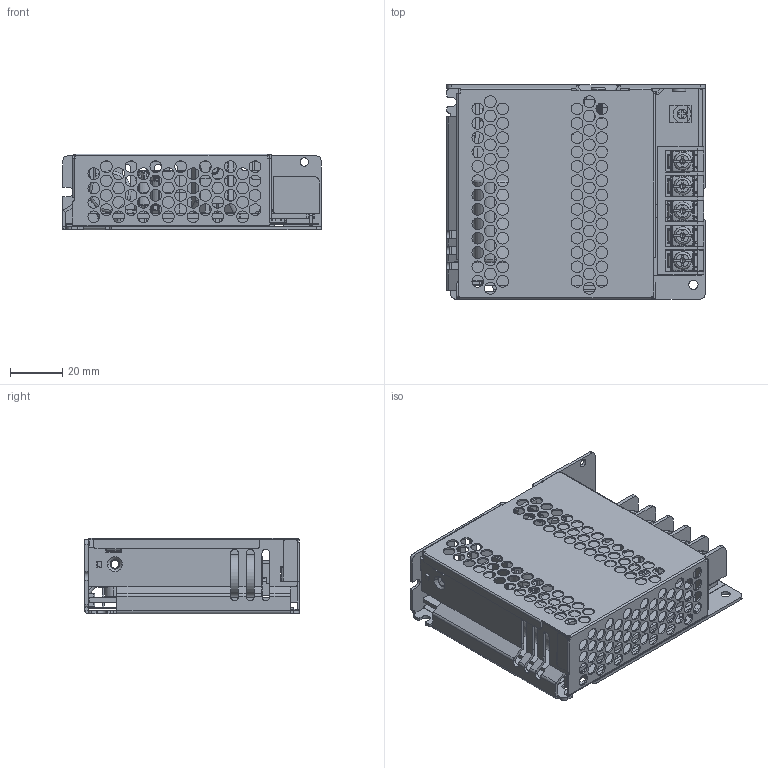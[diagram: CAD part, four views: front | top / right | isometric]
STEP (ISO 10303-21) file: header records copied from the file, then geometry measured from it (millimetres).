
FILE_DESCRIPTION((''),'2;1');
FILE_NAME('STP_PMT-12V35W2BA_ASM','2022-08-11T17:49:35',('EUNICE.HUANG'),(''),'CREO PARAMETRIC BY PTC INC, 2020053','CREO PARAMETRIC BY PTC INC, 2020053','');
FILE_SCHEMA(('CONFIG_CONTROL_DESIGN'));
Products named in the file (26): 50W_CHASSIS_T12_40; CHASSIS-STANDOFF_4; 50W_CHASSIS_T12_ASM_14_ASM; 50W_COVER_58; 50W2BA_41; BLACK_SINGLE_1; INSULATOR_TYPE2_12; VR1__1_1_1; 2500396210_TO220_1; SCREW_M3X05_L8_1; 516711_1_1; RM8-CORE_1_1; RM10-ASBL_ASM_1_ASM_1_ASM; RM10-ASBL_ASM_ASM_1_ASM; C1_6; YK1001A1-441_07_32_1_1; YK2002A1-441_07_16_1_1; YK5001A1-441_07_1_1_1; YK5002A1-441_07_2_1_1; YK0002A1-441_07_ASM_2_ASM_1_ASM_ASM; JIAOZI_34_1_1; YK44105_ASM_43_ASM_1_ASM_1_ASM; YK441-5_ASM_1_ASM_1_ASM; YK44105032D0G_FINAL_ASM_1_ASM; PMTXXV50W2BA_3D_ASM_106_ASM; STP_PMT-12V35W2BA_ASM
Assembly tree (34 placements, depth 7):
  STP_PMT-12V35W2BA_ASM
    PMTXXV50W2BA_3D_ASM_106_ASM
      50W_CHASSIS_T12_ASM_14_ASM
        50W_CHASSIS_T12_40
        CHASSIS-STANDOFF_4
      50W_COVER_58
      50W2BA_41
      BLACK_SINGLE_1
      INSULATOR_TYPE2_12
      VR1__1_1_1
      2500396210_TO220_1  x2
      SCREW_M3X05_L8_1
      RM10-ASBL_ASM_ASM_1_ASM
        RM10-ASBL_ASM_1_ASM_1_ASM
          516711_1_1
          RM8-CORE_1_1  x2
      C1_6
      YK44105032D0G_FINAL_ASM_1_ASM
        YK441-5_ASM_1_ASM_1_ASM
          YK44105_ASM_43_ASM_1_ASM_1_ASM
            YK1001A1-441_07_32_1_1
            YK2002A1-441_07_16_1_1  x4
            YK0002A1-441_07_ASM_2_ASM_1_ASM_ASM  x5
              YK5001A1-441_07_1_1_1
              YK5002A1-441_07_2_1_1
            JIAOZI_34_1_1
Bounding box: 99 x 82 x 29 mm (x, y, z)
Volume: 48269.2 mm3; surface area: 88949.7 mm2
Topology: 30 solids, 30 shells, 3478 faces, 9749 edges, 6282 vertices
Faces by surface type: plane 1777, cylinder 1198, bspline 301, torus 124, sphere 44, cone 34
Entity records: 94562 total; most frequent: CARTESIAN_POINT 33612, ORIENTED_EDGE 12800, DIRECTION 12438, EDGE_CURVE 6400, AXIS2_PLACEMENT_3D 4296, VERTEX_POINT 4046, VECTOR 3846, LINE 3846
